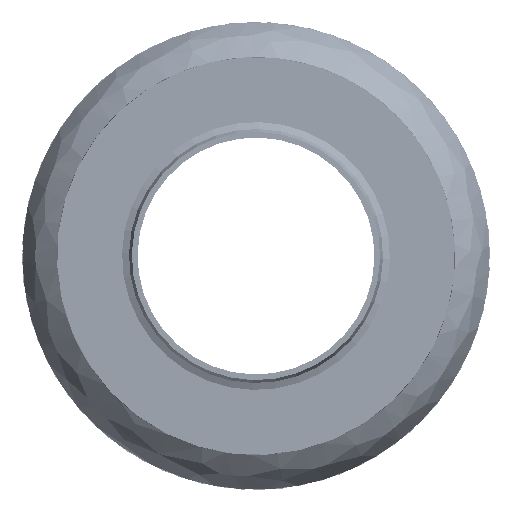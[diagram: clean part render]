
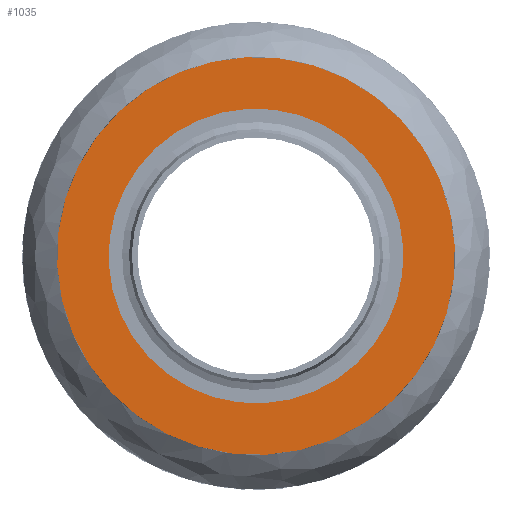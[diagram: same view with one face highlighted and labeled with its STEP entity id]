
A CAD part, front view. The second image highlights one B-rep face of the part: STEP entity #1035.
In plain terms, the highlighted planar face has unit normal (0, -1, 0) as drawn and (0, 1, 0) by its records, which use the part's own axes.
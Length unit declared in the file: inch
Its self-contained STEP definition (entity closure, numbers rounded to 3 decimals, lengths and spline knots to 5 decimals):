
#973=CARTESIAN_POINT('',(-0.311,1.5,0.));
#974=VERTEX_POINT('',#973);
#975=CARTESIAN_POINT('',(0.0,1.5,0.0));
#976=DIRECTION('',(0.0,-1.0,0.0));
#977=DIRECTION('',(1.0,0.0,0.0));
#978=AXIS2_PLACEMENT_3D('',#975,#976,#977);
#979=CIRCLE('',#978,0.311);
#980=EDGE_CURVE('',#974,#974,#979,.T.);
#1001=CARTESIAN_POINT('',(-0.42,1.5,0.));
#1002=VERTEX_POINT('',#1001);
#1003=CARTESIAN_POINT('',(0.0,1.5,0.0));
#1004=DIRECTION('',(0.0,-1.0,0.0));
#1005=DIRECTION('',(1.0,0.0,0.0));
#1006=AXIS2_PLACEMENT_3D('',#1003,#1004,#1005);
#1007=CIRCLE('',#1006,0.42);
#1008=EDGE_CURVE('',#1002,#1002,#1007,.T.);
#1024=CARTESIAN_POINT('',(0.0,1.5,0.0));
#1025=DIRECTION('',(0.0,-1.0,0.0));
#1026=DIRECTION('',(0.0,0.0,-1.0));
#1027=AXIS2_PLACEMENT_3D('',#1024,#1025,#1026);
#1028=PLANE('',#1027);
#1029=ORIENTED_EDGE('',*,*,#1008,.F.);
#1030=EDGE_LOOP('',(#1029));
#1031=FACE_OUTER_BOUND('',#1030,.T.);
#1032=ORIENTED_EDGE('',*,*,#980,.T.);
#1033=EDGE_LOOP('',(#1032));
#1034=FACE_BOUND('',#1033,.T.);
#1035=ADVANCED_FACE('',(#1031,#1034),#1028,.F.);
